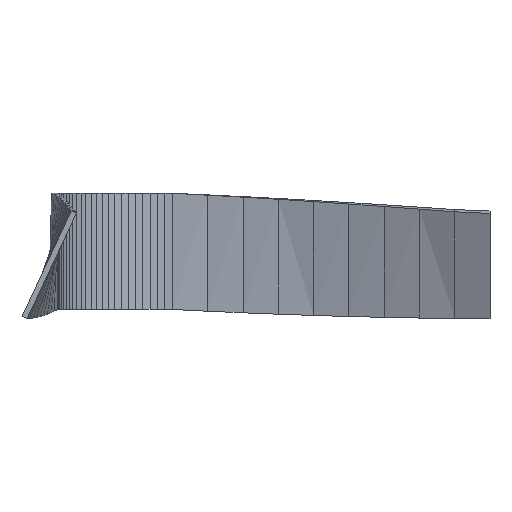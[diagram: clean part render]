
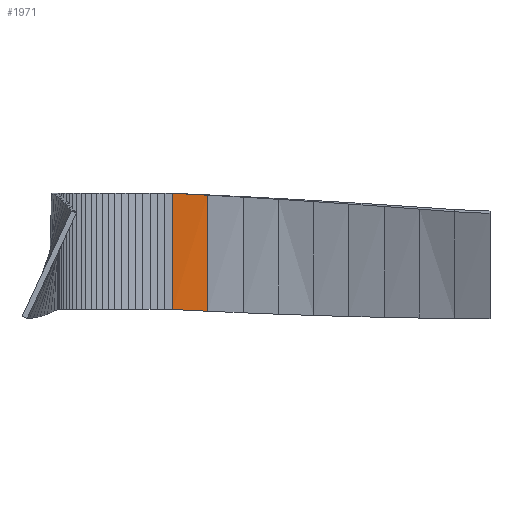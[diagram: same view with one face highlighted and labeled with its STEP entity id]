
A CAD part, left-side view. The second image highlights one B-rep face of the part: STEP entity #1971.
In plain terms, the highlighted free-form (B-spline) face has degree [1, 1] with [2, 2] control points.
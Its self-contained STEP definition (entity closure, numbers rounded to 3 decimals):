
#1588 = B_SPLINE_SURFACE_WITH_KNOTS('',1,1,(
    (#1589,#1590)
    ,(#1591,#1592
    )),.UNSPECIFIED.,.F.,.F.,.F.,(2,2),(2,2),(0.,12.3),(0.,1.),
  .PIECEWISE_BEZIER_KNOTS.);
#1589 = CARTESIAN_POINT('',(171.721,136.603,
    23.185));
#1590 = CARTESIAN_POINT('',(171.99,140.337,
    23.399));
#1591 = CARTESIAN_POINT('',(172.971,136.603,
    10.948));
#1592 = CARTESIAN_POINT('',(172.616,140.337,
    11.115));
#1712 = VERTEX_POINT('',#1713);
#1713 = CARTESIAN_POINT('',(171.99,140.337,
    23.399));
#1747 = B_SPLINE_SURFACE_WITH_KNOTS('',1,1,(
    (#1748,#1749)
    ,(#1750,#1751
    )),.UNSPECIFIED.,.F.,.F.,.F.,(2,2),(2,2),(0.,0.6),(0.,1.),
  .PIECEWISE_BEZIER_KNOTS.);
#1748 = CARTESIAN_POINT('',(172.589,140.337,
    23.43));
#1749 = CARTESIAN_POINT('',(172.87,144.07,23.6));
#1750 = CARTESIAN_POINT('',(171.99,140.337,
    23.399));
#1751 = CARTESIAN_POINT('',(172.27,144.07,23.6));
#1765 = VERTEX_POINT('',#1766);
#1766 = CARTESIAN_POINT('',(172.616,140.337,
    11.115));
#1786 = EDGE_CURVE('',#1712,#1765,#1787,.T.);
#1787 = SURFACE_CURVE('',#1788,(#1792,#1799),.PCURVE_S1.);
#1788 = LINE('',#1789,#1790);
#1789 = CARTESIAN_POINT('',(171.99,140.337,
    23.399));
#1790 = VECTOR('',#1791,1.);
#1791 = DIRECTION('',(0.051,0.,-0.999));
#1792 = PCURVE('',#1588,#1793);
#1793 = DEFINITIONAL_REPRESENTATION('',(#1794),#1798);
#1794 = LINE('',#1795,#1796);
#1795 = CARTESIAN_POINT('',(0.,1.));
#1796 = VECTOR('',#1797,1.);
#1797 = DIRECTION('',(1.,0.));
#1798 = ( GEOMETRIC_REPRESENTATION_CONTEXT(2) 
PARAMETRIC_REPRESENTATION_CONTEXT() REPRESENTATION_CONTEXT('2D SPACE',''
  ) );
#1799 = PCURVE('',#1800,#1805);
#1800 = B_SPLINE_SURFACE_WITH_KNOTS('',1,1,(
    (#1801,#1802)
    ,(#1803,#1804
    )),.UNSPECIFIED.,.F.,.F.,.F.,(2,2),(2,2),(0.,12.3),(0.,1.),
  .PIECEWISE_BEZIER_KNOTS.);
#1801 = CARTESIAN_POINT('',(171.99,140.337,
    23.399));
#1802 = CARTESIAN_POINT('',(172.27,144.07,23.6));
#1803 = CARTESIAN_POINT('',(172.616,140.337,
    11.115));
#1804 = CARTESIAN_POINT('',(172.27,144.07,11.3));
#1805 = DEFINITIONAL_REPRESENTATION('',(#1806),#1810);
#1806 = LINE('',#1807,#1808);
#1807 = CARTESIAN_POINT('',(0.,0.));
#1808 = VECTOR('',#1809,1.);
#1809 = DIRECTION('',(1.,0.));
#1810 = ( GEOMETRIC_REPRESENTATION_CONTEXT(2) 
PARAMETRIC_REPRESENTATION_CONTEXT() REPRESENTATION_CONTEXT('2D SPACE',''
  ) );
#1832 = B_SPLINE_SURFACE_WITH_KNOTS('',1,1,(
    (#1833,#1834)
    ,(#1835,#1836
    )),.UNSPECIFIED.,.F.,.F.,.F.,(2,2),(2,2),(0.,0.6),(0.,1.),
  .PIECEWISE_BEZIER_KNOTS.);
#1833 = CARTESIAN_POINT('',(172.616,140.337,
    11.115));
#1834 = CARTESIAN_POINT('',(172.27,144.07,11.3));
#1835 = CARTESIAN_POINT('',(173.215,140.337,
    11.146));
#1836 = CARTESIAN_POINT('',(172.87,144.07,11.3));
#1923 = EDGE_CURVE('',#1712,#1924,#1926,.T.);
#1924 = VERTEX_POINT('',#1925);
#1925 = CARTESIAN_POINT('',(172.27,144.07,23.6));
#1926 = SURFACE_CURVE('',#1927,(#1930,#1937),.PCURVE_S1.);
#1927 = B_SPLINE_CURVE_WITH_KNOTS('',1,(#1928,#1929),.UNSPECIFIED.,.F.,
  .F.,(2,2),(0.,1.),.PIECEWISE_BEZIER_KNOTS.);
#1928 = CARTESIAN_POINT('',(171.99,140.337,
    23.399));
#1929 = CARTESIAN_POINT('',(172.27,144.07,23.6));
#1930 = PCURVE('',#1747,#1931);
#1931 = DEFINITIONAL_REPRESENTATION('',(#1932),#1936);
#1932 = LINE('',#1933,#1934);
#1933 = CARTESIAN_POINT('',(0.6,0.));
#1934 = VECTOR('',#1935,1.);
#1935 = DIRECTION('',(0.,1.));
#1936 = ( GEOMETRIC_REPRESENTATION_CONTEXT(2) 
PARAMETRIC_REPRESENTATION_CONTEXT() REPRESENTATION_CONTEXT('2D SPACE',''
  ) );
#1937 = PCURVE('',#1800,#1938);
#1938 = DEFINITIONAL_REPRESENTATION('',(#1939),#1943);
#1939 = LINE('',#1940,#1941);
#1940 = CARTESIAN_POINT('',(0.,0.));
#1941 = VECTOR('',#1942,1.);
#1942 = DIRECTION('',(0.,1.));
#1943 = ( GEOMETRIC_REPRESENTATION_CONTEXT(2) 
PARAMETRIC_REPRESENTATION_CONTEXT() REPRESENTATION_CONTEXT('2D SPACE',''
  ) );
#1971 = ADVANCED_FACE('',(#1972),#1800,.F.);
#1972 = FACE_BOUND('',#1973,.F.);
#1973 = EDGE_LOOP('',(#1974,#1975,#1997,#2023));
#1974 = ORIENTED_EDGE('',*,*,#1786,.T.);
#1975 = ORIENTED_EDGE('',*,*,#1976,.T.);
#1976 = EDGE_CURVE('',#1765,#1977,#1979,.T.);
#1977 = VERTEX_POINT('',#1978);
#1978 = CARTESIAN_POINT('',(172.27,144.07,11.3));
#1979 = SURFACE_CURVE('',#1980,(#1983,#1990),.PCURVE_S1.);
#1980 = B_SPLINE_CURVE_WITH_KNOTS('',1,(#1981,#1982),.UNSPECIFIED.,.F.,
  .F.,(2,2),(0.,1.),.PIECEWISE_BEZIER_KNOTS.);
#1981 = CARTESIAN_POINT('',(172.616,140.337,
    11.115));
#1982 = CARTESIAN_POINT('',(172.27,144.07,11.3));
#1983 = PCURVE('',#1800,#1984);
#1984 = DEFINITIONAL_REPRESENTATION('',(#1985),#1989);
#1985 = LINE('',#1986,#1987);
#1986 = CARTESIAN_POINT('',(12.3,0.));
#1987 = VECTOR('',#1988,1.);
#1988 = DIRECTION('',(0.,1.));
#1989 = ( GEOMETRIC_REPRESENTATION_CONTEXT(2) 
PARAMETRIC_REPRESENTATION_CONTEXT() REPRESENTATION_CONTEXT('2D SPACE',''
  ) );
#1990 = PCURVE('',#1832,#1991);
#1991 = DEFINITIONAL_REPRESENTATION('',(#1992),#1996);
#1992 = LINE('',#1993,#1994);
#1993 = CARTESIAN_POINT('',(0.,0.));
#1994 = VECTOR('',#1995,1.);
#1995 = DIRECTION('',(0.,1.));
#1996 = ( GEOMETRIC_REPRESENTATION_CONTEXT(2) 
PARAMETRIC_REPRESENTATION_CONTEXT() REPRESENTATION_CONTEXT('2D SPACE',''
  ) );
#1997 = ORIENTED_EDGE('',*,*,#1998,.F.);
#1998 = EDGE_CURVE('',#1924,#1977,#1999,.T.);
#1999 = SURFACE_CURVE('',#2000,(#2004,#2011),.PCURVE_S1.);
#2000 = LINE('',#2001,#2002);
#2001 = CARTESIAN_POINT('',(172.27,144.07,23.6));
#2002 = VECTOR('',#2003,1.);
#2003 = DIRECTION('',(0.,0.,-1.));
#2004 = PCURVE('',#1800,#2005);
#2005 = DEFINITIONAL_REPRESENTATION('',(#2006),#2010);
#2006 = LINE('',#2007,#2008);
#2007 = CARTESIAN_POINT('',(0.,1.));
#2008 = VECTOR('',#2009,1.);
#2009 = DIRECTION('',(1.,0.));
#2010 = ( GEOMETRIC_REPRESENTATION_CONTEXT(2) 
PARAMETRIC_REPRESENTATION_CONTEXT() REPRESENTATION_CONTEXT('2D SPACE',''
  ) );
#2011 = PCURVE('',#2012,#2017);
#2012 = PLANE('',#2013);
#2013 = AXIS2_PLACEMENT_3D('',#2014,#2015,#2016);
#2014 = CARTESIAN_POINT('',(172.244,144.868,23.6));
#2015 = DIRECTION('',(0.999,0.033,0.));
#2016 = DIRECTION('',(0.,0.,-1.));
#2017 = DEFINITIONAL_REPRESENTATION('',(#2018),#2022);
#2018 = LINE('',#2019,#2020);
#2019 = CARTESIAN_POINT('',(0.,-0.798));
#2020 = VECTOR('',#2021,1.);
#2021 = DIRECTION('',(1.,0.));
#2022 = ( GEOMETRIC_REPRESENTATION_CONTEXT(2) 
PARAMETRIC_REPRESENTATION_CONTEXT() REPRESENTATION_CONTEXT('2D SPACE',''
  ) );
#2023 = ORIENTED_EDGE('',*,*,#1923,.F.);
